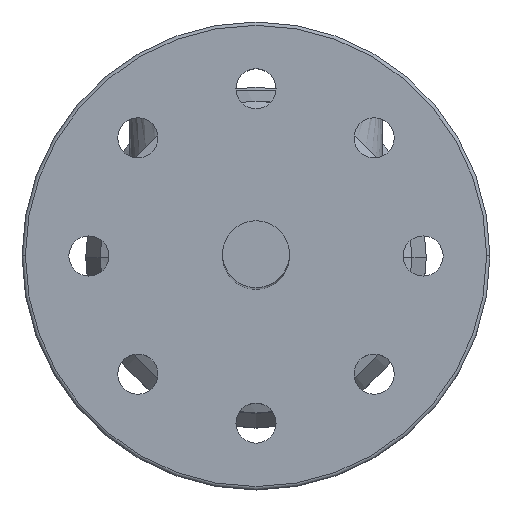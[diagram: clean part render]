
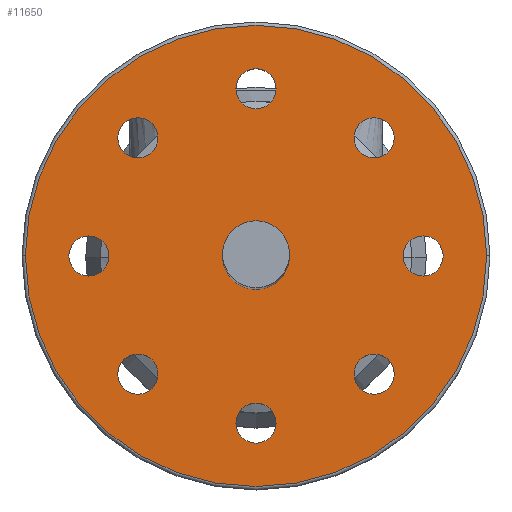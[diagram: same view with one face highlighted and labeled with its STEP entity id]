
A CAD part, top view. The second image highlights one B-rep face of the part: STEP entity #11650.
In plain terms, the highlighted planar face has unit normal (0, 0, 1).
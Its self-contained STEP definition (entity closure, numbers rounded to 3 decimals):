
#4128=CARTESIAN_POINT('',(0.,-50.,169.));
#4129=DIRECTION('',(0.,0.,-1.));
#4130=DIRECTION('',(-1.,0.,0.));
#4131=AXIS2_PLACEMENT_3D('',#4128,#4129,#4130);
#4133=CARTESIAN_POINT('',(0.,-50.,169.));
#4134=DIRECTION('',(0.,0.,-1.));
#4135=DIRECTION('',(1.,0.,0.));
#4136=AXIS2_PLACEMENT_3D('',#4133,#4134,#4135);
#4138=CARTESIAN_POINT('',(35.355,-35.355,169.));
#4139=DIRECTION('',(0.,0.,-1.));
#4140=DIRECTION('',(-0.707,-0.707,0.));
#4141=AXIS2_PLACEMENT_3D('',#4138,#4139,#4140);
#4143=CARTESIAN_POINT('',(35.355,-35.355,169.));
#4144=DIRECTION('',(0.,0.,-1.));
#4145=DIRECTION('',(0.707,0.707,0.));
#4146=AXIS2_PLACEMENT_3D('',#4143,#4144,#4145);
#4148=CARTESIAN_POINT('',(50.,0.,169.));
#4149=DIRECTION('',(0.,0.,-1.));
#4150=DIRECTION('',(0.,-1.,0.));
#4151=AXIS2_PLACEMENT_3D('',#4148,#4149,#4150);
#4153=CARTESIAN_POINT('',(50.,0.,169.));
#4154=DIRECTION('',(0.,0.,-1.));
#4155=DIRECTION('',(0.,1.,0.));
#4156=AXIS2_PLACEMENT_3D('',#4153,#4154,#4155);
#4158=CARTESIAN_POINT('',(35.355,35.355,169.));
#4159=DIRECTION('',(0.,0.,-1.));
#4160=DIRECTION('',(0.707,-0.707,0.));
#4161=AXIS2_PLACEMENT_3D('',#4158,#4159,#4160);
#4163=CARTESIAN_POINT('',(35.355,35.355,169.));
#4164=DIRECTION('',(0.,0.,-1.));
#4165=DIRECTION('',(-0.707,0.707,0.));
#4166=AXIS2_PLACEMENT_3D('',#4163,#4164,#4165);
#4168=CARTESIAN_POINT('',(0.,50.,169.));
#4169=DIRECTION('',(0.,0.,-1.));
#4170=DIRECTION('',(1.,0.,0.));
#4171=AXIS2_PLACEMENT_3D('',#4168,#4169,#4170);
#4173=CARTESIAN_POINT('',(0.,50.,169.));
#4174=DIRECTION('',(0.,0.,-1.));
#4175=DIRECTION('',(-1.,0.,0.));
#4176=AXIS2_PLACEMENT_3D('',#4173,#4174,#4175);
#4178=CARTESIAN_POINT('',(-35.355,35.355,169.));
#4179=DIRECTION('',(0.,0.,-1.));
#4180=DIRECTION('',(0.707,0.707,0.));
#4181=AXIS2_PLACEMENT_3D('',#4178,#4179,#4180);
#4183=CARTESIAN_POINT('',(-35.355,35.355,169.));
#4184=DIRECTION('',(0.,0.,-1.));
#4185=DIRECTION('',(-0.707,-0.707,0.));
#4186=AXIS2_PLACEMENT_3D('',#4183,#4184,#4185);
#4188=CARTESIAN_POINT('',(-50.,0.,169.));
#4189=DIRECTION('',(0.,0.,-1.));
#4190=DIRECTION('',(0.,1.,0.));
#4191=AXIS2_PLACEMENT_3D('',#4188,#4189,#4190);
#4193=CARTESIAN_POINT('',(-50.,0.,169.));
#4194=DIRECTION('',(0.,0.,-1.));
#4195=DIRECTION('',(0.,-1.,0.));
#4196=AXIS2_PLACEMENT_3D('',#4193,#4194,#4195);
#4198=CARTESIAN_POINT('',(-35.355,-35.355,169.));
#4199=DIRECTION('',(0.,0.,-1.));
#4200=DIRECTION('',(-0.707,0.707,0.));
#4201=AXIS2_PLACEMENT_3D('',#4198,#4199,#4200);
#4203=CARTESIAN_POINT('',(-35.355,-35.355,169.));
#4204=DIRECTION('',(0.,0.,-1.));
#4205=DIRECTION('',(0.707,-0.707,0.));
#4206=AXIS2_PLACEMENT_3D('',#4203,#4204,#4205);
#4208=CARTESIAN_POINT('',(0.,0.,169.));
#4209=DIRECTION('',(0.,0.,1.));
#4210=DIRECTION('',(-1.,0.,0.));
#4211=AXIS2_PLACEMENT_3D('',#4208,#4209,#4210);
#4213=CARTESIAN_POINT('',(0.,0.,169.));
#4214=DIRECTION('',(0.,0.,1.));
#4215=DIRECTION('',(1.,0.,0.));
#4216=AXIS2_PLACEMENT_3D('',#4213,#4214,#4215);
#4218=CARTESIAN_POINT('',(0.,0.,169.));
#4219=DIRECTION('',(0.,0.,1.));
#4220=DIRECTION('',(-1.,0.,0.));
#4221=AXIS2_PLACEMENT_3D('',#4218,#4219,#4220);
#4223=CARTESIAN_POINT('',(0.,0.,169.));
#4224=DIRECTION('',(0.,0.,1.));
#4225=DIRECTION('',(1.,0.,0.));
#4226=AXIS2_PLACEMENT_3D('',#4223,#4224,#4225);
#5507=CARTESIAN_POINT('',(-6.,-50.,169.));
#5508=CARTESIAN_POINT('',(6.,-50.,169.));
#5509=VERTEX_POINT('',#5507);
#5510=VERTEX_POINT('',#5508);
#5515=CARTESIAN_POINT('',(31.113,-39.598,169.));
#5516=CARTESIAN_POINT('',(39.598,-31.113,169.));
#5517=VERTEX_POINT('',#5515);
#5518=VERTEX_POINT('',#5516);
#5523=CARTESIAN_POINT('',(50.,-6.,169.));
#5524=CARTESIAN_POINT('',(50.,6.,169.));
#5525=VERTEX_POINT('',#5523);
#5526=VERTEX_POINT('',#5524);
#5531=CARTESIAN_POINT('',(39.598,31.113,169.));
#5532=CARTESIAN_POINT('',(31.113,39.598,169.));
#5533=VERTEX_POINT('',#5531);
#5534=VERTEX_POINT('',#5532);
#5539=CARTESIAN_POINT('',(6.,50.,169.));
#5540=CARTESIAN_POINT('',(-6.,50.,169.));
#5541=VERTEX_POINT('',#5539);
#5542=VERTEX_POINT('',#5540);
#5547=CARTESIAN_POINT('',(-31.113,39.598,169.));
#5548=CARTESIAN_POINT('',(-39.598,31.113,169.));
#5549=VERTEX_POINT('',#5547);
#5550=VERTEX_POINT('',#5548);
#5555=CARTESIAN_POINT('',(-50.,6.,169.));
#5556=CARTESIAN_POINT('',(-50.,-6.,169.));
#5557=VERTEX_POINT('',#5555);
#5558=VERTEX_POINT('',#5556);
#5563=CARTESIAN_POINT('',(-39.598,-31.113,169.));
#5564=CARTESIAN_POINT('',(-31.113,-39.598,169.));
#5565=VERTEX_POINT('',#5563);
#5566=VERTEX_POINT('',#5564);
#5571=CARTESIAN_POINT('',(-10.,0.,169.));
#5572=CARTESIAN_POINT('',(10.,0.,169.));
#5573=VERTEX_POINT('',#5571);
#5574=VERTEX_POINT('',#5572);
#5703=CARTESIAN_POINT('',(-69.,0.,169.));
#5704=CARTESIAN_POINT('',(69.,0.,169.));
#5705=VERTEX_POINT('',#5703);
#5706=VERTEX_POINT('',#5704);
#11587=CARTESIAN_POINT('',(0.,0.,169.));
#11588=DIRECTION('',(0.,0.,1.));
#11589=DIRECTION('',(-1.,0.,0.));
#11590=AXIS2_PLACEMENT_3D('',#11587,#11588,#11589);
#11591=PLANE('',#11590);
#11593=ORIENTED_EDGE('',*,*,#11592,.F.);
#11595=ORIENTED_EDGE('',*,*,#11594,.F.);
#11596=EDGE_LOOP('',(#11593,#11595));
#11597=FACE_OUTER_BOUND('',#11596,.F.);
#11599=ORIENTED_EDGE('',*,*,#11598,.F.);
#11601=ORIENTED_EDGE('',*,*,#11600,.F.);
#11602=EDGE_LOOP('',(#11599,#11601));
#11603=FACE_BOUND('',#11602,.F.);
#11605=ORIENTED_EDGE('',*,*,#11604,.F.);
#11607=ORIENTED_EDGE('',*,*,#11606,.F.);
#11608=EDGE_LOOP('',(#11605,#11607));
#11609=FACE_BOUND('',#11608,.F.);
#11611=ORIENTED_EDGE('',*,*,#11610,.F.);
#11613=ORIENTED_EDGE('',*,*,#11612,.F.);
#11614=EDGE_LOOP('',(#11611,#11613));
#11615=FACE_BOUND('',#11614,.F.);
#11617=ORIENTED_EDGE('',*,*,#11616,.F.);
#11619=ORIENTED_EDGE('',*,*,#11618,.F.);
#11620=EDGE_LOOP('',(#11617,#11619));
#11621=FACE_BOUND('',#11620,.F.);
#11623=ORIENTED_EDGE('',*,*,#11622,.F.);
#11625=ORIENTED_EDGE('',*,*,#11624,.F.);
#11626=EDGE_LOOP('',(#11623,#11625));
#11627=FACE_BOUND('',#11626,.F.);
#11629=ORIENTED_EDGE('',*,*,#11628,.F.);
#11631=ORIENTED_EDGE('',*,*,#11630,.F.);
#11632=EDGE_LOOP('',(#11629,#11631));
#11633=FACE_BOUND('',#11632,.F.);
#11635=ORIENTED_EDGE('',*,*,#11634,.F.);
#11637=ORIENTED_EDGE('',*,*,#11636,.F.);
#11638=EDGE_LOOP('',(#11635,#11637));
#11639=FACE_BOUND('',#11638,.F.);
#11641=ORIENTED_EDGE('',*,*,#11640,.T.);
#11643=ORIENTED_EDGE('',*,*,#11642,.T.);
#11644=EDGE_LOOP('',(#11641,#11643));
#11645=FACE_BOUND('',#11644,.F.);
#11646=ORIENTED_EDGE('',*,*,#11567,.F.);
#11647=ORIENTED_EDGE('',*,*,#11581,.F.);
#11648=EDGE_LOOP('',(#11646,#11647));
#11649=FACE_BOUND('',#11648,.F.);
#11650=ADVANCED_FACE('',(#11597,#11603,#11609,#11615,#11621,#11627,#11633,
#11639,#11645,#11649),#11591,.T.);
#4132=CIRCLE('',#4131,6.);
#4137=CIRCLE('',#4136,6.);
#4142=CIRCLE('',#4141,6.);
#4147=CIRCLE('',#4146,6.);
#4152=CIRCLE('',#4151,6.);
#4157=CIRCLE('',#4156,6.);
#4162=CIRCLE('',#4161,6.);
#4167=CIRCLE('',#4166,6.);
#4172=CIRCLE('',#4171,6.);
#4177=CIRCLE('',#4176,6.);
#4182=CIRCLE('',#4181,6.);
#4187=CIRCLE('',#4186,6.);
#4192=CIRCLE('',#4191,6.);
#4197=CIRCLE('',#4196,6.);
#4202=CIRCLE('',#4201,6.);
#4207=CIRCLE('',#4206,6.);
#4212=CIRCLE('',#4211,10.);
#4217=CIRCLE('',#4216,10.);
#4222=CIRCLE('',#4221,69.);
#4227=CIRCLE('',#4226,69.);
#11567=EDGE_CURVE('',#5509,#5510,#4132,.T.);
#11581=EDGE_CURVE('',#5510,#5509,#4137,.T.);
#11592=EDGE_CURVE('',#5705,#5706,#4222,.T.);
#11594=EDGE_CURVE('',#5706,#5705,#4227,.T.);
#11598=EDGE_CURVE('',#5517,#5518,#4142,.T.);
#11600=EDGE_CURVE('',#5518,#5517,#4147,.T.);
#11604=EDGE_CURVE('',#5525,#5526,#4152,.T.);
#11606=EDGE_CURVE('',#5526,#5525,#4157,.T.);
#11610=EDGE_CURVE('',#5533,#5534,#4162,.T.);
#11612=EDGE_CURVE('',#5534,#5533,#4167,.T.);
#11616=EDGE_CURVE('',#5541,#5542,#4172,.T.);
#11618=EDGE_CURVE('',#5542,#5541,#4177,.T.);
#11622=EDGE_CURVE('',#5549,#5550,#4182,.T.);
#11624=EDGE_CURVE('',#5550,#5549,#4187,.T.);
#11628=EDGE_CURVE('',#5557,#5558,#4192,.T.);
#11630=EDGE_CURVE('',#5558,#5557,#4197,.T.);
#11634=EDGE_CURVE('',#5565,#5566,#4202,.T.);
#11636=EDGE_CURVE('',#5566,#5565,#4207,.T.);
#11640=EDGE_CURVE('',#5573,#5574,#4212,.T.);
#11642=EDGE_CURVE('',#5574,#5573,#4217,.T.);
